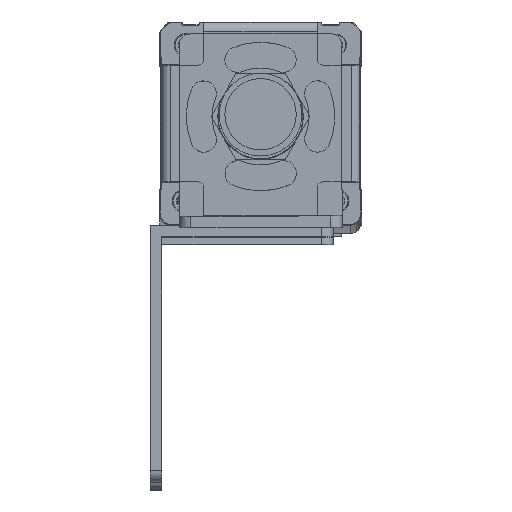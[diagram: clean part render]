
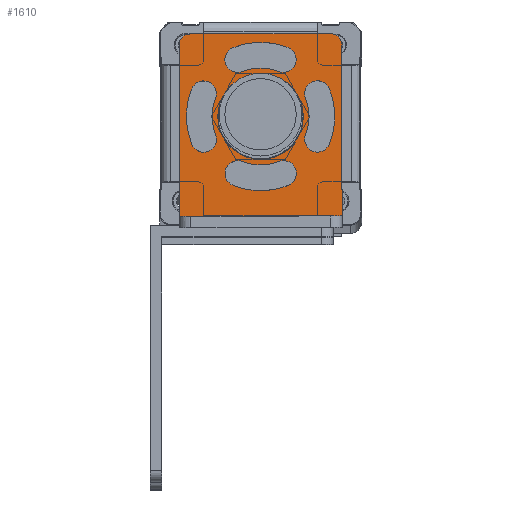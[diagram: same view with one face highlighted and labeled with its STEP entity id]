
A CAD part, top view. The second image highlights one B-rep face of the part: STEP entity #1610.
In plain terms, the highlighted planar face has unit normal (0, 0, 1).
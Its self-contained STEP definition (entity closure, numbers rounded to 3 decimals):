
#470=FACE_BOUND('',#3095,.T.);
#471=FACE_BOUND('',#3096,.T.);
#472=FACE_BOUND('',#3097,.T.);
#473=FACE_BOUND('',#3098,.T.);
#474=FACE_BOUND('',#3099,.T.);
#475=FACE_BOUND('',#3100,.T.);
#1046=CIRCLE('',#12267,7.5);
#1047=CIRCLE('',#12269,7.5);
#1048=CIRCLE('',#12271,2.);
#1049=CIRCLE('',#12272,2.);
#1050=CIRCLE('',#12273,8.5);
#1051=CIRCLE('',#12274,2.25);
#1052=CIRCLE('',#12275,13.);
#1053=CIRCLE('',#12276,2.25);
#1054=CIRCLE('',#12277,13.);
#1055=CIRCLE('',#12278,2.25);
#1056=CIRCLE('',#12279,8.5);
#1057=CIRCLE('',#12280,2.25);
#1058=CIRCLE('',#12281,13.);
#1059=CIRCLE('',#12282,2.25);
#1060=CIRCLE('',#12283,8.5);
#1061=CIRCLE('',#12284,2.25);
#1062=CIRCLE('',#12285,13.);
#1063=CIRCLE('',#12286,2.25);
#1064=CIRCLE('',#12287,8.5);
#1065=CIRCLE('',#12288,2.25);
#1610=ADVANCED_FACE('',(#470,#471,#472,#473,#474,#475),#1961,.T.);
#1961=PLANE('',#12289);
#3095=EDGE_LOOP('',(#6187,#6188,#6189,#6190,#6191,#6192));
#3096=EDGE_LOOP('',(#6193,#6194));
#3097=EDGE_LOOP('',(#6195,#6196,#6197,#6198));
#3098=EDGE_LOOP('',(#6199,#6200,#6201,#6202));
#3099=EDGE_LOOP('',(#6203,#6204,#6205,#6206));
#3100=EDGE_LOOP('',(#6207,#6208,#6209,#6210));
#6187=ORIENTED_EDGE('',*,*,#8998,.T.);
#6188=ORIENTED_EDGE('',*,*,#8999,.T.);
#6189=ORIENTED_EDGE('',*,*,#9000,.T.);
#6190=ORIENTED_EDGE('',*,*,#9001,.F.);
#6191=ORIENTED_EDGE('',*,*,#9002,.T.);
#6192=ORIENTED_EDGE('',*,*,#9003,.T.);
#6193=ORIENTED_EDGE('',*,*,#8997,.F.);
#6194=ORIENTED_EDGE('',*,*,#8995,.F.);
#6195=ORIENTED_EDGE('',*,*,#9004,.F.);
#6196=ORIENTED_EDGE('',*,*,#9005,.F.);
#6197=ORIENTED_EDGE('',*,*,#9006,.F.);
#6198=ORIENTED_EDGE('',*,*,#9007,.F.);
#6199=ORIENTED_EDGE('',*,*,#9008,.F.);
#6200=ORIENTED_EDGE('',*,*,#9009,.F.);
#6201=ORIENTED_EDGE('',*,*,#9010,.F.);
#6202=ORIENTED_EDGE('',*,*,#9011,.F.);
#6203=ORIENTED_EDGE('',*,*,#9012,.F.);
#6204=ORIENTED_EDGE('',*,*,#9013,.F.);
#6205=ORIENTED_EDGE('',*,*,#9014,.F.);
#6206=ORIENTED_EDGE('',*,*,#9015,.F.);
#6207=ORIENTED_EDGE('',*,*,#9016,.F.);
#6208=ORIENTED_EDGE('',*,*,#9017,.F.);
#6209=ORIENTED_EDGE('',*,*,#9018,.F.);
#6210=ORIENTED_EDGE('',*,*,#9019,.F.);
#7415=VERTEX_POINT('',#18774);
#7416=VERTEX_POINT('',#18776);
#7417=VERTEX_POINT('',#18782);
#7418=VERTEX_POINT('',#18783);
#7419=VERTEX_POINT('',#18785);
#7420=VERTEX_POINT('',#18787);
#7421=VERTEX_POINT('',#18789);
#7422=VERTEX_POINT('',#18791);
#7423=VERTEX_POINT('',#18794);
#7424=VERTEX_POINT('',#18795);
#7425=VERTEX_POINT('',#18797);
#7426=VERTEX_POINT('',#18799);
#7427=VERTEX_POINT('',#18802);
#7428=VERTEX_POINT('',#18803);
#7429=VERTEX_POINT('',#18805);
#7430=VERTEX_POINT('',#18807);
#7431=VERTEX_POINT('',#18810);
#7432=VERTEX_POINT('',#18811);
#7433=VERTEX_POINT('',#18813);
#7434=VERTEX_POINT('',#18815);
#7435=VERTEX_POINT('',#18818);
#7436=VERTEX_POINT('',#18819);
#7437=VERTEX_POINT('',#18821);
#7438=VERTEX_POINT('',#18823);
#8995=EDGE_CURVE('',#7415,#7416,#1046,.T.);
#8997=EDGE_CURVE('',#7416,#7415,#1047,.T.);
#8998=EDGE_CURVE('',#7417,#7418,#10119,.T.);
#8999=EDGE_CURVE('',#7418,#7419,#1048,.T.);
#9000=EDGE_CURVE('',#7419,#7420,#10120,.T.);
#9001=EDGE_CURVE('',#7421,#7420,#10121,.T.);
#9002=EDGE_CURVE('',#7421,#7422,#10122,.T.);
#9003=EDGE_CURVE('',#7422,#7417,#1049,.T.);
#9004=EDGE_CURVE('',#7423,#7424,#1050,.T.);
#9005=EDGE_CURVE('',#7425,#7423,#1051,.T.);
#9006=EDGE_CURVE('',#7426,#7425,#1052,.T.);
#9007=EDGE_CURVE('',#7424,#7426,#1053,.T.);
#9008=EDGE_CURVE('',#7427,#7428,#1054,.T.);
#9009=EDGE_CURVE('',#7429,#7427,#1055,.T.);
#9010=EDGE_CURVE('',#7430,#7429,#1056,.T.);
#9011=EDGE_CURVE('',#7428,#7430,#1057,.T.);
#9012=EDGE_CURVE('',#7431,#7432,#1058,.T.);
#9013=EDGE_CURVE('',#7433,#7431,#1059,.T.);
#9014=EDGE_CURVE('',#7434,#7433,#1060,.T.);
#9015=EDGE_CURVE('',#7432,#7434,#1061,.T.);
#9016=EDGE_CURVE('',#7435,#7436,#1062,.T.);
#9017=EDGE_CURVE('',#7437,#7435,#1063,.T.);
#9018=EDGE_CURVE('',#7438,#7437,#1064,.T.);
#9019=EDGE_CURVE('',#7436,#7438,#1065,.T.);
#10119=LINE('',#18781,#11206);
#10120=LINE('',#18786,#11207);
#10121=LINE('',#18788,#11208);
#10122=LINE('',#18790,#11209);
#11206=VECTOR('',#15419,1.);
#11207=VECTOR('',#15422,1.);
#11208=VECTOR('',#15423,1.);
#11209=VECTOR('',#15424,1.);
#12267=AXIS2_PLACEMENT_3D('',#18775,#15410,#15411);
#12269=AXIS2_PLACEMENT_3D('',#18779,#15415,#15416);
#12271=AXIS2_PLACEMENT_3D('',#18784,#15420,#15421);
#12272=AXIS2_PLACEMENT_3D('',#18792,#15425,#15426);
#12273=AXIS2_PLACEMENT_3D('',#18793,#15427,#15428);
#12274=AXIS2_PLACEMENT_3D('',#18796,#15429,#15430);
#12275=AXIS2_PLACEMENT_3D('',#18798,#15431,#15432);
#12276=AXIS2_PLACEMENT_3D('',#18800,#15433,#15434);
#12277=AXIS2_PLACEMENT_3D('',#18801,#15435,#15436);
#12278=AXIS2_PLACEMENT_3D('',#18804,#15437,#15438);
#12279=AXIS2_PLACEMENT_3D('',#18806,#15439,#15440);
#12280=AXIS2_PLACEMENT_3D('',#18808,#15441,#15442);
#12281=AXIS2_PLACEMENT_3D('',#18809,#15443,#15444);
#12282=AXIS2_PLACEMENT_3D('',#18812,#15445,#15446);
#12283=AXIS2_PLACEMENT_3D('',#18814,#15447,#15448);
#12284=AXIS2_PLACEMENT_3D('',#18816,#15449,#15450);
#12285=AXIS2_PLACEMENT_3D('',#18817,#15451,#15452);
#12286=AXIS2_PLACEMENT_3D('',#18820,#15453,#15454);
#12287=AXIS2_PLACEMENT_3D('',#18822,#15455,#15456);
#12288=AXIS2_PLACEMENT_3D('',#18824,#15457,#15458);
#12289=AXIS2_PLACEMENT_3D('',#18825,#15459,#15460);
#15410=DIRECTION('',(0.,0.,1.));
#15411=DIRECTION('',(-1.,-0.002,0.));
#15415=DIRECTION('',(0.,0.,1.));
#15416=DIRECTION('',(1.,0.002,0.));
#15419=DIRECTION('',(-1.,-0.002,0.));
#15420=DIRECTION('',(0.,0.,1.));
#15421=DIRECTION('',(-0.002,1.,0.));
#15422=DIRECTION('',(0.002,-1.,0.));
#15423=DIRECTION('',(-1.,-0.002,0.));
#15424=DIRECTION('',(-0.002,1.,0.));
#15425=DIRECTION('',(0.,0.,1.));
#15426=DIRECTION('',(1.,0.002,0.));
#15427=DIRECTION('',(0.,0.,-1.));
#15428=DIRECTION('',(0.928,0.374,0.));
#15429=DIRECTION('',(0.,0.,1.));
#15430=DIRECTION('',(0.928,0.374,0.));
#15431=DIRECTION('',(0.,0.,1.));
#15432=DIRECTION('',(0.929,-0.371,0.));
#15433=DIRECTION('',(0.,0.,1.));
#15434=DIRECTION('',(-0.929,0.371,0.));
#15435=DIRECTION('',(0.,0.,1.));
#15436=DIRECTION('',(-0.929,0.371,0.));
#15437=DIRECTION('',(0.,0.,1.));
#15438=DIRECTION('',(0.929,-0.371,0.));
#15439=DIRECTION('',(0.,0.,-1.));
#15440=DIRECTION('',(-0.928,-0.374,0.));
#15441=DIRECTION('',(0.,0.,1.));
#15442=DIRECTION('',(-0.928,-0.374,0.));
#15443=DIRECTION('',(0.,0.,1.));
#15444=DIRECTION('',(-0.371,-0.929,0.));
#15445=DIRECTION('',(0.,0.,1.));
#15446=DIRECTION('',(0.371,0.929,0.));
#15447=DIRECTION('',(0.,0.,-1.));
#15448=DIRECTION('',(0.374,-0.928,0.));
#15449=DIRECTION('',(0.,0.,1.));
#15450=DIRECTION('',(0.374,-0.928,0.));
#15451=DIRECTION('',(0.,0.,1.));
#15452=DIRECTION('',(0.371,0.929,0.));
#15453=DIRECTION('',(0.,0.,1.));
#15454=DIRECTION('',(-0.371,-0.929,0.));
#15455=DIRECTION('',(0.,0.,-1.));
#15456=DIRECTION('',(-0.374,0.928,0.));
#15457=DIRECTION('',(0.,0.,1.));
#15458=DIRECTION('',(-0.374,0.928,0.));
#15459=DIRECTION('',(0.,0.,1.));
#15460=DIRECTION('',(-1.,-0.002,0.));
#18774=CARTESIAN_POINT('',(243.846,-38.579,283.445));
#18775=CARTESIAN_POINT('',(251.346,-38.566,283.445));
#18776=CARTESIAN_POINT('',(258.846,-38.553,283.445));
#18779=CARTESIAN_POINT('',(251.346,-38.566,283.445));
#18781=CARTESIAN_POINT('',(263.572,-24.045,283.445));
#18782=CARTESIAN_POINT('',(263.572,-24.045,283.445));
#18783=CARTESIAN_POINT('',(239.072,-24.087,283.445));
#18784=CARTESIAN_POINT('',(239.075,-26.087,283.445));
#18785=CARTESIAN_POINT('',(237.075,-26.09,283.445));
#18786=CARTESIAN_POINT('',(237.075,-26.09,283.445));
#18787=CARTESIAN_POINT('',(237.126,-56.09,283.445));
#18788=CARTESIAN_POINT('',(265.626,-56.042,283.445));
#18789=CARTESIAN_POINT('',(265.626,-56.042,283.445));
#18790=CARTESIAN_POINT('',(265.626,-56.042,283.445));
#18791=CARTESIAN_POINT('',(265.575,-26.042,283.445));
#18792=CARTESIAN_POINT('',(263.575,-26.045,283.445));
#18793=CARTESIAN_POINT('',(251.346,-38.566,283.445));
#18794=CARTESIAN_POINT('',(259.231,-35.39,283.445));
#18795=CARTESIAN_POINT('',(259.241,-41.715,283.445));
#18796=CARTESIAN_POINT('',(261.318,-34.549,283.445));
#18797=CARTESIAN_POINT('',(263.405,-33.708,283.445));
#18798=CARTESIAN_POINT('',(251.346,-38.566,283.445));
#18799=CARTESIAN_POINT('',(263.421,-43.383,283.445));
#18800=CARTESIAN_POINT('',(261.331,-42.549,283.445));
#18801=CARTESIAN_POINT('',(251.346,-38.566,283.445));
#18802=CARTESIAN_POINT('',(239.272,-33.749,283.445));
#18803=CARTESIAN_POINT('',(239.288,-43.423,283.445));
#18804=CARTESIAN_POINT('',(241.362,-34.583,283.445));
#18805=CARTESIAN_POINT('',(243.451,-35.416,283.445));
#18806=CARTESIAN_POINT('',(251.346,-38.566,283.445));
#18807=CARTESIAN_POINT('',(243.462,-41.742,283.445));
#18808=CARTESIAN_POINT('',(241.375,-42.583,283.445));
#18809=CARTESIAN_POINT('',(251.346,-38.566,283.445));
#18810=CARTESIAN_POINT('',(246.529,-50.641,283.445));
#18811=CARTESIAN_POINT('',(256.204,-50.624,283.445));
#18812=CARTESIAN_POINT('',(247.363,-48.551,283.445));
#18813=CARTESIAN_POINT('',(248.197,-46.461,283.445));
#18814=CARTESIAN_POINT('',(251.346,-38.566,283.445));
#18815=CARTESIAN_POINT('',(254.522,-46.45,283.445));
#18816=CARTESIAN_POINT('',(255.363,-48.537,283.445));
#18817=CARTESIAN_POINT('',(251.346,-38.566,283.445));
#18818=CARTESIAN_POINT('',(256.163,-26.491,283.445));
#18819=CARTESIAN_POINT('',(246.489,-26.508,283.445));
#18820=CARTESIAN_POINT('',(255.33,-28.581,283.445));
#18821=CARTESIAN_POINT('',(254.496,-30.671,283.445));
#18822=CARTESIAN_POINT('',(251.346,-38.566,283.445));
#18823=CARTESIAN_POINT('',(248.17,-30.682,283.445));
#18824=CARTESIAN_POINT('',(247.33,-28.595,283.445));
#18825=CARTESIAN_POINT('',(251.346,-38.566,283.445));
